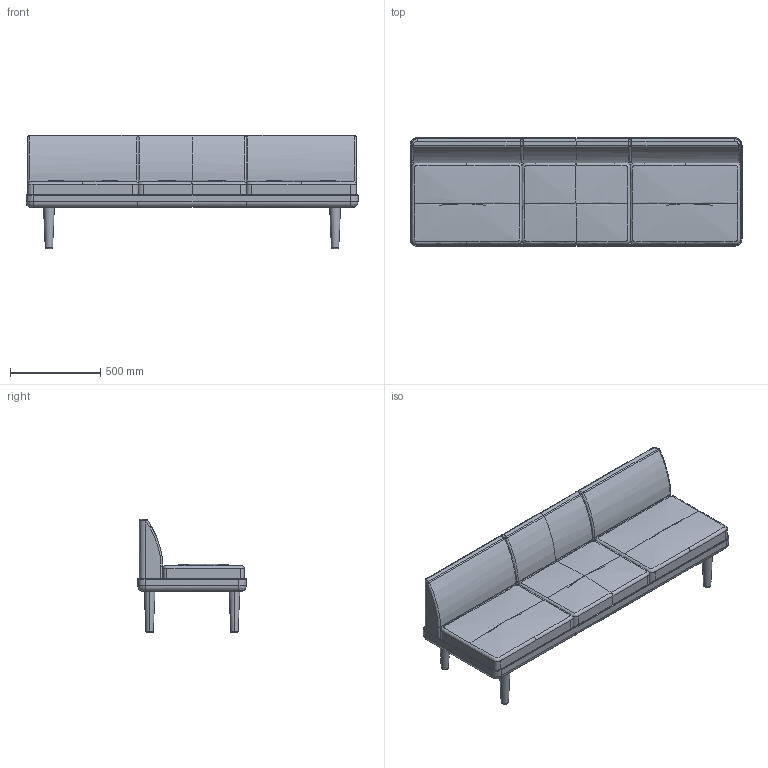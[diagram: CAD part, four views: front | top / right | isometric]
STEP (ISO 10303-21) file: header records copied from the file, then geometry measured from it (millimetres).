
FILE_DESCRIPTION(/* description */ (''),/* implementation_level */ '2;1');
FILE_NAME(/* name */ 'KI43E1~1',/* time_stamp */ '2021-07-16T15:59:14+09:00',/* author */ (''),/* organization */ (''),/* preprocessor_version */ 'ST-DEVELOPER v15',/* originating_system */ '',/* authorisation */ '');
FILE_SCHEMA (('AUTOMOTIVE_DESIGN'));
Length unit declared in the file: millimetre
Products named in the file (1): Document
Bounding box: 1840 x 600 x 630.02 mm (x, y, z)
Volume: 202961644.7 mm3; surface area: 6581233.7 mm2
Topology: 11 solids, 11 shells, 193 faces, 430 edges, 256 vertices
Faces by surface type: bspline 134, plane 59
Entity records: 25430 total; most frequent: CARTESIAN_POINT 22905, ORIENTED_EDGE 852, EDGE_CURVE 426, VERTEX_POINT 256, EDGE_LOOP 194, ADVANCED_FACE 193, FACE_OUTER_BOUND 193, B_SPLINE_CURVE_WITH_KNOTS 152
